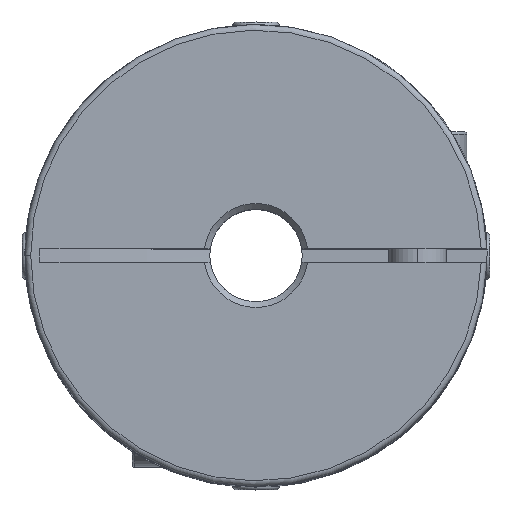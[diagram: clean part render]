
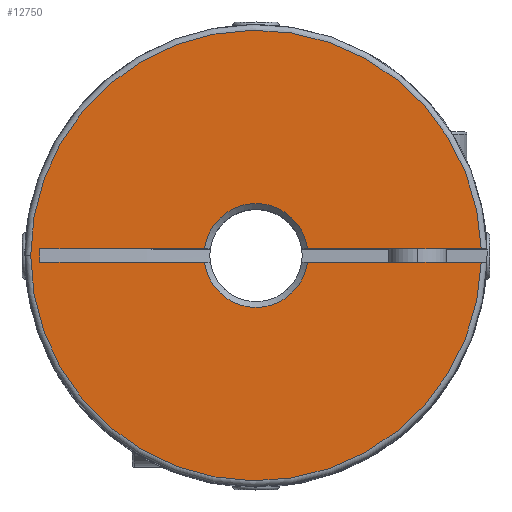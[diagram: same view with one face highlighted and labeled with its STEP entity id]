
A CAD part, top view. The second image highlights one B-rep face of the part: STEP entity #12750.
In plain terms, the highlighted planar face has unit normal (0, 0, 1).
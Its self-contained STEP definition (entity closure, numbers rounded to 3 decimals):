
#1414 = EDGE_LOOP ( 'NONE', ( #13961, #13965, #13964, #13966, #13968, #13967, #13969, #13970, #13971 ) ) ;
#3957 = CARTESIAN_POINT ( 'NONE',  ( 19.492, 0.575, 25.5 ) ) ;
#3958 = CARTESIAN_POINT ( 'NONE',  ( -19.5, 0., 25.5 ) ) ;
#5189 = CARTESIAN_POINT ( 'NONE',  ( 0., 0., 25.5 ) ) ;
#5190 = DIRECTION ( 'NONE',  ( 0., 0., 1. ) ) ;
#5191 = DIRECTION ( 'NONE',  ( -1., 0., 0. ) ) ;
#6054 = CIRCLE ( 'NONE', #15309, 19.5 ) ;
#6215 = CIRCLE ( 'NONE', #15632, 4.5 ) ;
#6216 = CIRCLE ( 'NONE', #15634, 19.5 ) ;
#6217 = CIRCLE ( 'NONE', #15628, 4.5 ) ;
#8549 = CARTESIAN_POINT ( 'NONE',  ( -4.463, 0.575, 25.5 ) ) ;
#8550 = CARTESIAN_POINT ( 'NONE',  ( 4.463, 0.575, 25.5 ) ) ;
#8551 = CARTESIAN_POINT ( 'NONE',  ( 19.492, -0.575, 25.5 ) ) ;
#8552 = CARTESIAN_POINT ( 'NONE',  ( 4.463, -0.575, 25.5 ) ) ;
#8553 = CARTESIAN_POINT ( 'NONE',  ( -4.463, -0.575, 25.5 ) ) ;
#8554 = CARTESIAN_POINT ( 'NONE',  ( -18.7, -0.575, 25.5 ) ) ;
#8555 = CARTESIAN_POINT ( 'NONE',  ( -18.7, 0.575, 25.5 ) ) ;
#10422 = CARTESIAN_POINT ( 'NONE',  ( 0., 0., 25.5 ) ) ;
#10423 = LINE ( 'NONE', #10424, #15635 ) ;
#10424 = CARTESIAN_POINT ( 'NONE',  ( 19.5, 0.575, 25.5 ) ) ;
#10425 = DIRECTION ( 'NONE',  ( -1., 0., 0. ) ) ;
#10426 = DIRECTION ( 'NONE',  ( 0., 0., -1. ) ) ;
#10427 = DIRECTION ( 'NONE',  ( -1., 0., 0. ) ) ;
#10428 = CARTESIAN_POINT ( 'NONE',  ( 0., 0., 25.5 ) ) ;
#10429 = DIRECTION ( 'NONE',  ( 0., 0., 1. ) ) ;
#10430 = DIRECTION ( 'NONE',  ( -1., 0., 0. ) ) ;
#10431 = CARTESIAN_POINT ( 'NONE',  ( 0., 0., 25.5 ) ) ;
#10432 = LINE ( 'NONE', #10433, #15638 ) ;
#10433 = CARTESIAN_POINT ( 'NONE',  ( 19.5, -0.575, 25.5 ) ) ;
#10434 = DIRECTION ( 'NONE',  ( -1., 0., 0. ) ) ;
#10435 = DIRECTION ( 'NONE',  ( 0., 0., -1. ) ) ;
#10436 = DIRECTION ( 'NONE',  ( -1., 0., 0. ) ) ;
#10438 = LINE ( 'NONE', #10439, #15639 ) ;
#10439 = CARTESIAN_POINT ( 'NONE',  ( 19.5, -0.575, 25.5 ) ) ;
#10440 = DIRECTION ( 'NONE',  ( -1., 0., 0. ) ) ;
#10441 = LINE ( 'NONE', #10442, #15641 ) ;
#10442 = CARTESIAN_POINT ( 'NONE',  ( -18.7, 0.575, 25.5 ) ) ;
#10443 = DIRECTION ( 'NONE',  ( 0., -1., 0. ) ) ;
#10444 = LINE ( 'NONE', #10445, #15643 ) ;
#10445 = CARTESIAN_POINT ( 'NONE',  ( 19.5, 0.575, 25.5 ) ) ;
#10446 = DIRECTION ( 'NONE',  ( -1., 0., 0. ) ) ;
#11109 = VERTEX_POINT ( 'NONE', #3957 ) ;
#11110 = VERTEX_POINT ( 'NONE', #3958 ) ;
#11764 = PLANE ( 'NONE',  #14831 ) ;
#11765 = CARTESIAN_POINT ( 'NONE',  ( 0., 0., 25.5 ) ) ;
#11766 = DIRECTION ( 'NONE',  ( 0., 0., 1. ) ) ;
#11767 = DIRECTION ( 'NONE',  ( -1., 0., 0. ) ) ;
#12750 = ADVANCED_FACE ( 'NONE', ( #14826 ), #11764, .T. ) ;
#13104 = EDGE_CURVE ( 'NONE', #11109, #11110, #6054, .T. ) ;
#13370 = EDGE_CURVE ( 'NONE', #11109, #13814, #10423, .T. ) ;
#13371 = EDGE_CURVE ( 'NONE', #13813, #13814, #6215, .T. ) ;
#13372 = EDGE_CURVE ( 'NONE', #11110, #13815, #6216, .T. ) ;
#13373 = EDGE_CURVE ( 'NONE', #13815, #13816, #10432, .T. ) ;
#13374 = EDGE_CURVE ( 'NONE', #13816, #13817, #6217, .T. ) ;
#13375 = EDGE_CURVE ( 'NONE', #13817, #13818, #10438, .T. ) ;
#13376 = EDGE_CURVE ( 'NONE', #13819, #13818, #10441, .T. ) ;
#13377 = EDGE_CURVE ( 'NONE', #13813, #13819, #10444, .T. ) ;
#13813 = VERTEX_POINT ( 'NONE', #8549 ) ;
#13814 = VERTEX_POINT ( 'NONE', #8550 ) ;
#13815 = VERTEX_POINT ( 'NONE', #8551 ) ;
#13816 = VERTEX_POINT ( 'NONE', #8552 ) ;
#13817 = VERTEX_POINT ( 'NONE', #8553 ) ;
#13818 = VERTEX_POINT ( 'NONE', #8554 ) ;
#13819 = VERTEX_POINT ( 'NONE', #8555 ) ;
#13961 = ORIENTED_EDGE ( 'NONE', *, *, #13371, .T. ) ;
#13964 = ORIENTED_EDGE ( 'NONE', *, *, #13104, .T. ) ;
#13965 = ORIENTED_EDGE ( 'NONE', *, *, #13370, .F. ) ;
#13966 = ORIENTED_EDGE ( 'NONE', *, *, #13372, .T. ) ;
#13967 = ORIENTED_EDGE ( 'NONE', *, *, #13374, .T. ) ;
#13968 = ORIENTED_EDGE ( 'NONE', *, *, #13373, .T. ) ;
#13969 = ORIENTED_EDGE ( 'NONE', *, *, #13375, .T. ) ;
#13970 = ORIENTED_EDGE ( 'NONE', *, *, #13376, .F. ) ;
#13971 = ORIENTED_EDGE ( 'NONE', *, *, #13377, .F. ) ;
#14826 = FACE_OUTER_BOUND ( 'NONE', #1414, .T. ) ;
#14831 = AXIS2_PLACEMENT_3D ( 'NONE', #11765, #11766, #11767 ) ;
#15309 = AXIS2_PLACEMENT_3D ( 'NONE', #5189, #5190, #5191 ) ;
#15628 = AXIS2_PLACEMENT_3D ( 'NONE', #10431, #10435, #10436 ) ;
#15632 = AXIS2_PLACEMENT_3D ( 'NONE', #10422, #10426, #10427 ) ;
#15634 = AXIS2_PLACEMENT_3D ( 'NONE', #10428, #10429, #10430 ) ;
#15635 = VECTOR ( 'NONE', #10425, 1000. ) ;
#15638 = VECTOR ( 'NONE', #10434, 1000. ) ;
#15639 = VECTOR ( 'NONE', #10440, 1000. ) ;
#15641 = VECTOR ( 'NONE', #10443, 1000. ) ;
#15643 = VECTOR ( 'NONE', #10446, 1000. ) ;
